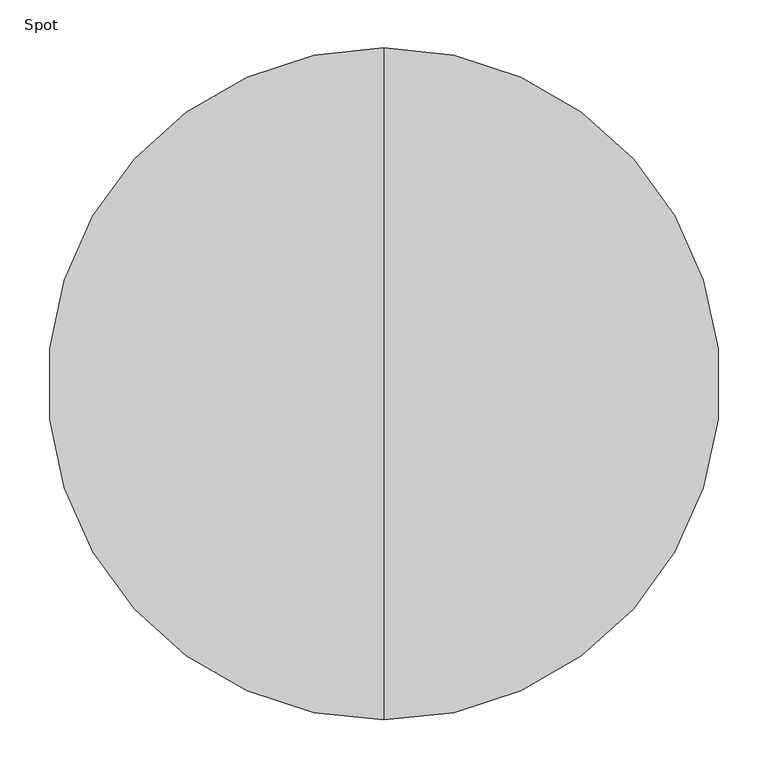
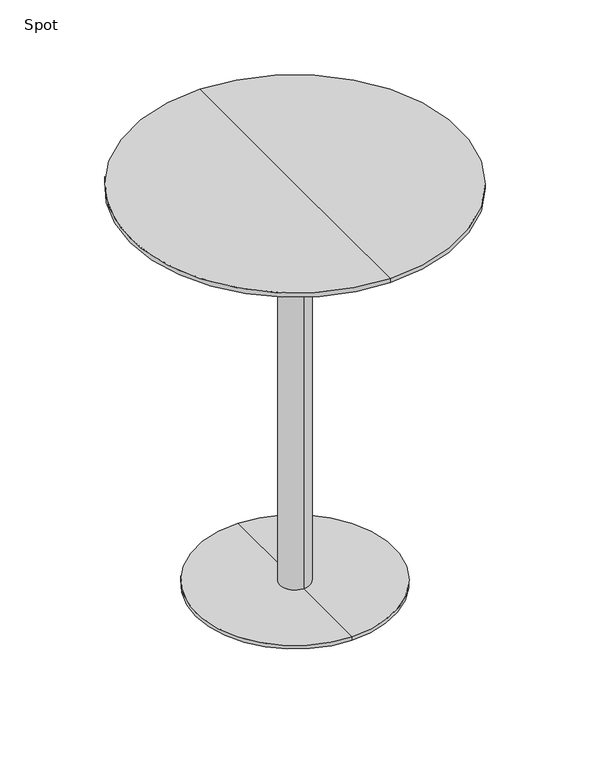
"""IFC4 building model written with IfcOpenShell, lengths in millimetres: furniture geometry, Spot : ø70x90."""

import ifcopenshell
import ifcopenshell.guid

model = None  # the IFC model being written
_history = None  # IfcOwnerHistory: only IFC2X3 demands one
_inside = {}  # id of a spatial element -> (the spatial element, [elements in it])
_under = {}  # id of a project, library or spatial element -> (it, [spatial elements below it])
_declared = {}  # id of a project -> (the project, [libraries it declares])
_typed = {}  # id of a type object -> (the type object, [elements of that type])
_made_of = {}  # id of a material, layer set ... -> (it, [elements and type objects made of it])


def new_model(schema):
    """Start an empty IFC model of exactly this schema.

    Asked for "IFC4X3", IfcOpenShell would pick the latest addendum, in which some entities
    have other attributes; the version numbers below select the first issue.
    IFC2X3 requires an IfcOwnerHistory on every rooted entity: one is made here for all.
    """
    global model, _history
    if schema == "IFC4X3":
        model = ifcopenshell.file(schema_version=(4, 3, 0, 0))
    else:
        model = ifcopenshell.file(schema=schema)
    _inside.clear()
    _under.clear()
    _declared.clear()
    _typed.clear()
    _made_of.clear()
    _history = None
    if model.schema == "IFC2X3":
        org = make("IfcOrganization", Name="unknown")
        user = make(
            "IfcPersonAndOrganization",
            ThePerson=make("IfcPerson", FamilyName="unknown"),
            TheOrganization=org,
        )
        app = make(
            "IfcApplication",
            ApplicationDeveloper=org,
            Version="unknown",
            ApplicationFullName="unknown",
            ApplicationIdentifier="unknown",
        )
        _history = make(
            "IfcOwnerHistory",
            OwningUser=user,
            OwningApplication=app,
            ChangeAction="ADDED",
            CreationDate=0,
        )
    return model


def make(cls, **values):
    """One entity of the class cls with the attributes given. An attribute that is None is left unset."""
    return model.create_entity(
        cls, **{name: value for name, value in values.items() if value is not None}
    )


def rooted(cls, **values):
    """An entity with a GlobalId (a new one), such as an element, a storey or a relation."""
    return make(cls, GlobalId=ifcopenshell.guid.new(), OwnerHistory=_history, **values)


def si_unit(unit_type, name, prefix=None):
    """IfcSIUnit, for example si_unit("LENGTHUNIT", "METRE", prefix="MILLI")."""
    return make("IfcSIUnit", UnitType=unit_type, Prefix=prefix, Name=name)


def assignment(units):
    """IfcUnitAssignment: the units of a project."""
    return None if units is None else make("IfcUnitAssignment", Units=units)


def point(xyz):
    """IfcCartesianPoint."""
    return None if xyz is None else make("IfcCartesianPoint", Coordinates=xyz)


def direction(xyz):
    """IfcDirection."""
    return None if xyz is None else make("IfcDirection", DirectionRatios=xyz)


def frame(location, z_axis=None, x_axis=None):
    """IfcAxis2Placement3D, a coordinate frame: its origin and axes. An axis left out is left unset."""
    return make(
        "IfcAxis2Placement3D",
        Location=point(location),
        Axis=direction(z_axis),
        RefDirection=direction(x_axis),
    )


def origin():
    """The frame at (0, 0, 0) with its axes left unset."""
    return frame((0.0, 0.0, 0.0))


def place(relative_to, where):
    """IfcLocalPlacement: puts the frame where relative to a parent placement (None: the world)."""
    return make(
        "IfcLocalPlacement", PlacementRelTo=relative_to, RelativePlacement=where
    )


def context(
    kind, dimensions, precision=None, world=None, true_north=None, identifier=None
):
    """IfcGeometricRepresentationContext, for example the 3D "Model" context."""
    return make(
        "IfcGeometricRepresentationContext",
        ContextIdentifier=identifier,
        ContextType=kind,
        CoordinateSpaceDimension=dimensions,
        Precision=precision,
        WorldCoordinateSystem=world,
        TrueNorth=true_north,
    )


def project(units=None, contexts=None):
    """IfcProject with its units and contexts."""
    return rooted(
        "IfcProject",
        Name="project",
        RepresentationContexts=contexts,
        UnitsInContext=assignment(units),
    )


def spatial(cls, under=None, at=None, **own):
    """A site, building, storey or space (cls), placed at a placement, below another one or the project."""
    s = rooted(cls, ObjectPlacement=at, **own)
    if under is not None:
        _under.setdefault(under.id(), (under, []))[1].append(s)
    return s


def polyline(points):
    """IfcPolyline through the points."""
    return make("IfcPolyline", Points=[point(p) for p in points])


def circle_curve(where, radius):
    """IfcCircle in the frame where."""
    return make("IfcCircle", Position=where, Radius=radius)


def shape(context_of_items, identifier, shape_type, items):
    """IfcShapeRepresentation: the items that make up one representation, for example the "Body"."""
    return make(
        "IfcShapeRepresentation",
        ContextOfItems=context_of_items,
        RepresentationIdentifier=identifier,
        RepresentationType=shape_type,
        Items=items,
    )


def source(mapping_origin, context_of_items, identifier, shape_type, items):
    """IfcRepresentationMap: a shape defined once, which mapped items show again and again."""
    return make(
        "IfcRepresentationMap",
        MappingOrigin=mapping_origin,
        MappedRepresentation=shape(context_of_items, identifier, shape_type, items),
    )


def transform(
    local_origin,
    x_axis=None,
    y_axis=None,
    z_axis=None,
    scale=None,
    scale2=None,
    scale3=None,
    uniform=True,
):
    """IfcCartesianTransformationOperator3D, or its non-uniform kind. x_axis, y_axis, z_axis: its Axis1, 2, 3."""
    if uniform:
        return make(
            "IfcCartesianTransformationOperator3D",
            Axis1=direction(x_axis),
            Axis2=direction(y_axis),
            LocalOrigin=point(local_origin),
            Scale=scale,
            Axis3=direction(z_axis),
        )
    return make(
        "IfcCartesianTransformationOperator3DnonUniform",
        Axis1=direction(x_axis),
        Axis2=direction(y_axis),
        LocalOrigin=point(local_origin),
        Scale=scale,
        Axis3=direction(z_axis),
        Scale2=scale2,
        Scale3=scale3,
    )


def mapped(mapping_source, mapping_target):
    """IfcMappedItem: shows the shape of a source again, moved by a transform."""
    return make(
        "IfcMappedItem", MappingSource=mapping_source, MappingTarget=mapping_target
    )


def made_of(thing, what):
    """Note that an element or type object is made of a material, layer set ...; save() writes the relation."""
    if what is not None:
        _made_of.setdefault(what.id(), (what, []))[1].append(thing)
    return thing


def element(
    cls,
    number,
    at=None,
    inside=None,
    cuts=None,
    type_object=None,
    material=None,
    context=None,
    identifier="Body",
    shape_type=None,
    held_by="IfcProductDefinitionShape",
    body=None,
    shapes=None,
    **own,
):
    """One element of the class cls, such as IfcWall. Its Tag is "e" and its number.

    at: its placement. inside: the storey or other place that contains it. cuts: it is an
    opening in that element (IfcRelVoidsElement). A single representation is given by context,
    identifier, shape_type and body (its items); several are given by shapes. held_by: the class
    of the entity that holds the representations. save() writes the other relations.
    """
    e = rooted(cls, Tag="e%d" % number, ObjectPlacement=at, **own)
    if body is not None:
        shapes = [shape(context, identifier, shape_type, body)]
    if shapes is not None:
        e.Representation = make(held_by, Representations=shapes)
    if inside is not None:
        _inside.setdefault(inside.id(), (inside, []))[1].append(e)
    if cuts is not None:
        rooted(
            "IfcRelVoidsElement", RelatingBuildingElement=cuts, RelatedOpeningElement=e
        )
    if type_object is not None:
        _typed.setdefault(type_object.id(), (type_object, []))[1].append(e)
    return made_of(e, material)


def aggregate(whole, parts):
    """IfcRelAggregates: a whole, such as a stair, and the parts it consists of."""
    return rooted("IfcRelAggregates", RelatingObject=whole, RelatedObjects=parts)


def save(model, path):
    """Write the relations noted so far, then the file.

    IfcRelAggregates (storeys below a building ...), IfcRelContainedInSpatialStructure (elements
    in a storey), IfcRelDefinesByType, IfcRelAssociatesMaterial and IfcRelDeclares: one each for
    every whole, place, type object, material and project.
    """
    for whole, parts in _under.values():
        aggregate(whole, parts)
    for where, things in _inside.values():
        rooted(
            "IfcRelContainedInSpatialStructure",
            RelatedElements=things,
            RelatingStructure=where,
        )
    for kind, things in _typed.values():
        rooted("IfcRelDefinesByType", RelatedObjects=things, RelatingType=kind)
    for what, things in _made_of.values():
        rooted("IfcRelAssociatesMaterial", RelatedObjects=things, RelatingMaterial=what)
    for by, libraries in _declared.values():
        rooted("IfcRelDeclares", RelatingContext=by, RelatedDefinitions=libraries)
    model.write(path)


def plane_surface(at):
    """IfcPlane: the flat surface through the origin of the frame at, square to its z axis."""
    return make("IfcPlane", Position=at)


def cylinder_surface(at, radius):
    """IfcCylindricalSurface: all points at the distance radius from the z axis of the frame at."""
    return make("IfcCylindricalSurface", Position=at, Radius=radius)


def revolved_surface(curve, axis_point, axis_direction):
    """IfcSurfaceOfRevolution: the curve turned about the line through axis_point along axis_direction."""
    return make(
        "IfcSurfaceOfRevolution",
        SweptCurve=make("IfcArbitraryOpenProfileDef", ProfileType="CURVE", Curve=curve),
        AxisPosition=make("IfcAxis1Placement", Location=point(axis_point), Axis=direction(axis_direction)),
    )


def advanced_brep(points, edges, surfaces, faces):
    """IfcAdvancedBrep: a solid bounded by faces that lie on surfaces and meet in shared edges.

    An edge is (start, end): straight between two places in points (the first is 0);
    or (start, end, curve); or (start, end, curve, False) where it runs against its curve.
    A face is (place in surfaces, loops), or (place, loops, False) where it looks against
    its surface's normal. A loop lists edges by number (the first is 1), with a minus sign
    where the edge is run from its end to its start. The first loop is the outer one.
    """
    corners = [point(p) for p in points]
    vertices = [make("IfcVertexPoint", VertexGeometry=c) for c in corners]
    made = []
    for start, end, *more in edges:
        made.append(
            make(
                "IfcEdgeCurve",
                EdgeStart=vertices[start],
                EdgeEnd=vertices[end],
                EdgeGeometry=more[0] if more else make("IfcPolyline", Points=[corners[start], corners[end]]),
                SameSense=more[1] if len(more) > 1 else True,
            )
        )
    hull = []
    for where, loops, *sense in faces:
        bounds = []
        for j, loop in enumerate(loops):
            ring = [make("IfcOrientedEdge", EdgeElement=made[abs(k) - 1], Orientation=k > 0) for k in loop]
            bounds.append(
                make(
                    "IfcFaceOuterBound" if j == 0 else "IfcFaceBound",
                    Bound=make("IfcEdgeLoop", EdgeList=ring),
                    Orientation=True,
                )
            )
        hull.append(make("IfcAdvancedFace", Bounds=bounds, FaceSurface=surfaces[where], SameSense=sense[0] if sense else True))
    return make("IfcAdvancedBrep", Outer=make("IfcClosedShell", CfsFaces=hull))


def spot_e71004df(model_context):
    return source(origin(), model_context, "Body", "AdvancedBrep", [
        advanced_brep(
        [(0.0, 350.0, 900.0), (0.0, -350.0, 900.0), (0.0, 0.0, 900.0), (0.0, 350.0, 890.25), (0.0, -350.0, 890.25), (0.0, 304.2823776, 878.0), (0.0, -304.2823776, 878.0), (0.0, 0.0, 878.0)],
        [
            (0, 1, circle_curve(frame((0.0, 0.0, 900.0), z_axis=(0.0, 0.0, 1.0), x_axis=(0.0, -1.0, 0.0)), 350.0)),
            (1, 2),
            (2, 0),
            (1, 0, circle_curve(frame((0.0, 0.0, 900.0), z_axis=(0.0, 0.0, 1.0), x_axis=(0.0, -1.0, 0.0)), 350.0)),
            (3, 4, circle_curve(frame((0.0, 0.0, 890.25), z_axis=(0.0, 0.0, 1.0), x_axis=(0.0, -1.0, 0.0)), 350.0)),
            (4, 1),
            (0, 3),
            (4, 3, circle_curve(frame((0.0, 0.0, 890.25), z_axis=(0.0, 0.0, 1.0), x_axis=(0.0, -1.0, 0.0)), 350.0)),
            (5, 6, circle_curve(frame((0.0, 0.0, 878.0), z_axis=(0.0, 0.0, 1.0), x_axis=(0.0, -1.0, 0.0)), 304.2823776)),
            (6, 4),
            (3, 5),
            (6, 5, circle_curve(frame((0.0, 0.0, 878.0), z_axis=(0.0, 0.0, 1.0), x_axis=(0.0, -1.0, 0.0)), 304.2823776)),
            (7, 6),
            (5, 7),
        ],
        [
            plane_surface(frame((0.0, 0.0, 900.0), z_axis=(0.0, 0.0, 1.0), x_axis=(0.0, -1.0, 0.0))),
            cylinder_surface(frame((0.0, 0.0, 980.0), z_axis=(0.0, 0.0, -1.0), x_axis=(0.0, -1.0, 0.0)), 350.0),
            revolved_surface(polyline([(0.0, -350.0, 890.25), (0.0, -304.2823776, 878.0)]), (0.0, 0.0, 980.0), (0.0, 0.0, -1.0)),
            plane_surface(frame((0.0, 0.0, 878.0), z_axis=(0.0, 0.0, -1.0), x_axis=(0.0, -1.0, 0.0))),
        ],
        [
            (0, [[1, 2, 3]]),
            (0, [[4, -3, -2]]),
            (1, [[5, 6, -1, 7]]),
            (1, [[8, -7, -4, -6]]),
            (2, [[9, 10, -5, 11]]),
            (2, [[12, -11, -8, -10]]),
            (3, [[13, -9, 14]]),
            (3, [[-14, -12, -13]]),
        ],
    ),
        advanced_brep(
        [(0.0, 32.0, 10.0), (0.0, -32.0, 10.0), (0.0, -32.0, 847.406916), (0.0, 32.0, 847.406916), (0.0, 210.0, 10.0), (0.0, -210.0, 10.0), (0.0, 210.0, 2.0), (0.0, -210.0, 2.0), (0.0, 0.0, 2.0), (0.0, 150.0, 878.0), (0.0, -150.0, 878.0), (0.0, 0.0, 878.0), (0.0, 150.0, 866.7213673), (0.0, -150.0, 866.7213673)],
        [
            (0, 1, circle_curve(frame((0.0, 0.0, 10.0), z_axis=(0.0, 0.0, 1.0), x_axis=(0.0, -1.0, 0.0)), 32.0)),
            (1, 2),
            (2, 3, circle_curve(frame((0.0, 0.0, 847.406916), z_axis=(0.0, 0.0, -1.0), x_axis=(0.0, -1.0, 0.0)), 32.0)),
            (3, 0),
            (1, 0, circle_curve(frame((0.0, 0.0, 10.0), z_axis=(0.0, 0.0, 1.0), x_axis=(0.0, -1.0, 0.0)), 32.0)),
            (3, 2, circle_curve(frame((0.0, 0.0, 847.406916), z_axis=(0.0, 0.0, -1.0), x_axis=(0.0, -1.0, 0.0)), 32.0)),
            (4, 5, circle_curve(frame((0.0, 0.0, 10.0), z_axis=(0.0, 0.0, 1.0), x_axis=(0.0, -1.0, 0.0)), 210.0)),
            (5, 1),
            (0, 4),
            (5, 4, circle_curve(frame((0.0, 0.0, 10.0), z_axis=(0.0, 0.0, 1.0), x_axis=(0.0, -1.0, 0.0)), 210.0)),
            (6, 7, circle_curve(frame((0.0, 0.0, 2.0), z_axis=(0.0, 0.0, 1.0), x_axis=(0.0, -1.0, 0.0)), 210.0)),
            (7, 5),
            (4, 6),
            (7, 6, circle_curve(frame((0.0, 0.0, 2.0), z_axis=(0.0, 0.0, 1.0), x_axis=(0.0, -1.0, 0.0)), 210.0)),
            (8, 7),
            (6, 8),
            (9, 10, circle_curve(frame((0.0, 0.0, 878.0), z_axis=(0.0, 0.0, 1.0), x_axis=(0.0, -1.0, 0.0)), 150.0)),
            (10, 11),
            (11, 9),
            (10, 9, circle_curve(frame((0.0, 0.0, 878.0), z_axis=(0.0, 0.0, 1.0), x_axis=(0.0, -1.0, 0.0)), 150.0)),
            (12, 13, circle_curve(frame((0.0, 0.0, 866.7213673), z_axis=(0.0, 0.0, 1.0), x_axis=(0.0, -1.0, 0.0)), 150.0)),
            (13, 10),
            (9, 12),
            (13, 12, circle_curve(frame((0.0, 0.0, 866.7213673), z_axis=(0.0, 0.0, 1.0), x_axis=(0.0, -1.0, 0.0)), 150.0)),
            (2, 13),
            (12, 3),
        ],
        [
            cylinder_surface(frame((0.0, 0.0, 1240.0), z_axis=(0.0, 0.0, -1.0), x_axis=(0.0, -1.0, 0.0)), 32.0),
            plane_surface(frame((0.0, 0.0, 10.0), z_axis=(0.0, 0.0, 1.0), x_axis=(0.0, -1.0, 0.0))),
            cylinder_surface(frame((0.0, 0.0, 1240.0), z_axis=(0.0, 0.0, -1.0), x_axis=(0.0, -1.0, 0.0)), 210.0),
            plane_surface(frame((0.0, 0.0, 2.0), z_axis=(0.0, 0.0, -1.0), x_axis=(0.0, -1.0, 0.0))),
            plane_surface(frame((0.0, 0.0, 878.0), z_axis=(0.0, 0.0, 1.0), x_axis=(0.0, -1.0, 0.0))),
            cylinder_surface(frame((0.0, 0.0, 1240.0), z_axis=(0.0, 0.0, -1.0), x_axis=(0.0, -1.0, 0.0)), 150.0),
            revolved_surface(polyline([(0.0, -150.0, 866.7213673), (0.0, -32.0, 847.406916)]), (0.0, 0.0, 1240.0), (0.0, 0.0, -1.0)),
        ],
        [
            (0, [[1, 2, 3, 4]]),
            (0, [[5, -4, 6, -2]]),
            (1, [[7, 8, -1, 9]]),
            (1, [[10, -9, -5, -8]]),
            (2, [[11, 12, -7, 13]]),
            (2, [[14, -13, -10, -12]]),
            (3, [[15, -11, 16]]),
            (3, [[-16, -14, -15]]),
            (4, [[17, 18, 19]]),
            (4, [[20, -19, -18]]),
            (5, [[21, 22, -17, 23]]),
            (5, [[24, -23, -20, -22]]),
            (6, [[-3, 25, -21, 26]]),
            (6, [[-6, -26, -24, -25]]),
        ],
    ),
    ])


if __name__ == "__main__":
    model = new_model("IFC4")
    model_context = context("Model", 3, world=origin())
    ifc_project = project(units=[si_unit("LENGTHUNIT", "METRE", prefix="MILLI")], contexts=[model_context])
    site = spatial("IfcSite", under=ifc_project)
    building = spatial("IfcBuilding", under=site)
    placement = place(None, origin())
    spot_shape = spot_e71004df(model_context)
    element("IfcFurniture", 1, ObjectType="Spot : ø70x90", at=placement, inside=building, context=model_context, shape_type="MappedRepresentation", body=[
        mapped(spot_shape, transform((0.0, 0.0, 0.0), x_axis=(1.0, 0.0, 0.0), y_axis=(0.0, 1.0, 0.0), z_axis=(0.0, 0.0, 1.0))),
    ])
    save(model, "model.ifc")
